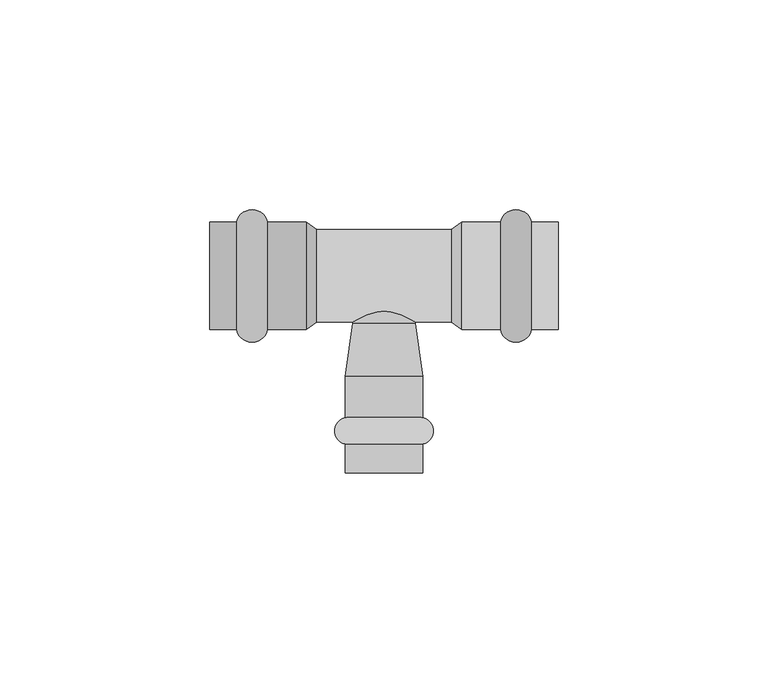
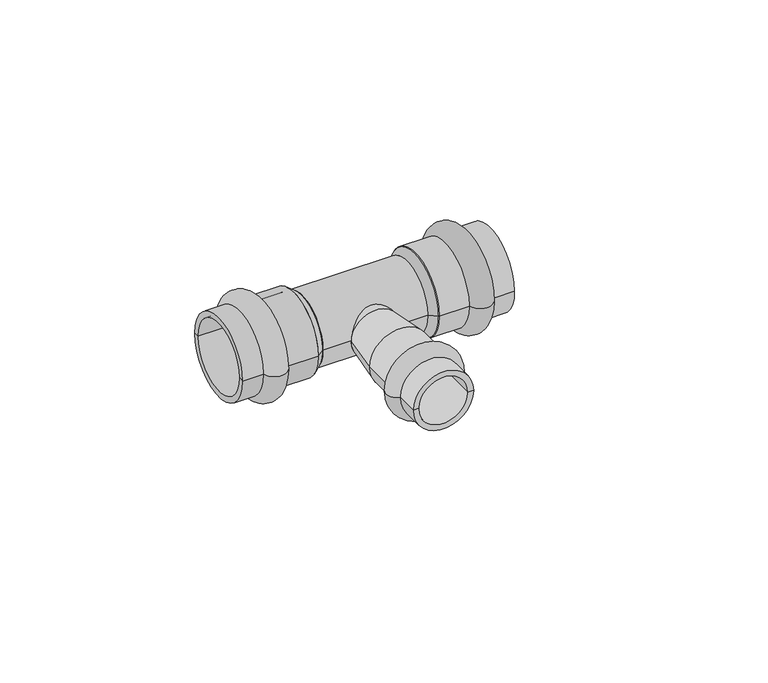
"""IFC4 building model written with IfcOpenShell, lengths in millimetres: pipe fitting geometry, VALTEC_VTi.931.I_Тройник_Ннержавеющая сталь : VTi.931.I."""

import ifcopenshell
import ifcopenshell.guid

model = None  # the IFC model being written
_history = None  # IfcOwnerHistory: only IFC2X3 demands one
_inside = {}  # id of a spatial element -> (the spatial element, [elements in it])
_under = {}  # id of a project, library or spatial element -> (it, [spatial elements below it])
_declared = {}  # id of a project -> (the project, [libraries it declares])
_typed = {}  # id of a type object -> (the type object, [elements of that type])
_made_of = {}  # id of a material, layer set ... -> (it, [elements and type objects made of it])


def new_model(schema):
    """Start an empty IFC model of exactly this schema.

    Asked for "IFC4X3", IfcOpenShell would pick the latest addendum, in which some entities
    have other attributes; the version numbers below select the first issue.
    IFC2X3 requires an IfcOwnerHistory on every rooted entity: one is made here for all.
    """
    global model, _history
    if schema == "IFC4X3":
        model = ifcopenshell.file(schema_version=(4, 3, 0, 0))
    else:
        model = ifcopenshell.file(schema=schema)
    _inside.clear()
    _under.clear()
    _declared.clear()
    _typed.clear()
    _made_of.clear()
    _history = None
    if model.schema == "IFC2X3":
        org = make("IfcOrganization", Name="unknown")
        user = make(
            "IfcPersonAndOrganization",
            ThePerson=make("IfcPerson", FamilyName="unknown"),
            TheOrganization=org,
        )
        app = make(
            "IfcApplication",
            ApplicationDeveloper=org,
            Version="unknown",
            ApplicationFullName="unknown",
            ApplicationIdentifier="unknown",
        )
        _history = make(
            "IfcOwnerHistory",
            OwningUser=user,
            OwningApplication=app,
            ChangeAction="ADDED",
            CreationDate=0,
        )
    return model


def make(cls, **values):
    """One entity of the class cls with the attributes given. An attribute that is None is left unset."""
    return model.create_entity(
        cls, **{name: value for name, value in values.items() if value is not None}
    )


def rooted(cls, **values):
    """An entity with a GlobalId (a new one), such as an element, a storey or a relation."""
    return make(cls, GlobalId=ifcopenshell.guid.new(), OwnerHistory=_history, **values)


def si_unit(unit_type, name, prefix=None):
    """IfcSIUnit, for example si_unit("LENGTHUNIT", "METRE", prefix="MILLI")."""
    return make("IfcSIUnit", UnitType=unit_type, Prefix=prefix, Name=name)


def assignment(units):
    """IfcUnitAssignment: the units of a project."""
    return None if units is None else make("IfcUnitAssignment", Units=units)


def point(xyz):
    """IfcCartesianPoint."""
    return None if xyz is None else make("IfcCartesianPoint", Coordinates=xyz)


def direction(xyz):
    """IfcDirection."""
    return None if xyz is None else make("IfcDirection", DirectionRatios=xyz)


def frame(location, z_axis=None, x_axis=None):
    """IfcAxis2Placement3D, a coordinate frame: its origin and axes. An axis left out is left unset."""
    return make(
        "IfcAxis2Placement3D",
        Location=point(location),
        Axis=direction(z_axis),
        RefDirection=direction(x_axis),
    )


def frame_2d(location, x_axis=None):
    """IfcAxis2Placement2D, a coordinate frame in the plane: its origin and x axis."""
    return make(
        "IfcAxis2Placement2D", Location=point(location), RefDirection=direction(x_axis)
    )


def origin():
    """The frame at (0, 0, 0) with its axes left unset."""
    return frame((0.0, 0.0, 0.0))


def origin_2d():
    """The frame at (0, 0) in the plane with its x axis left unset."""
    return frame_2d((0.0, 0.0))


def place(relative_to, where):
    """IfcLocalPlacement: puts the frame where relative to a parent placement (None: the world)."""
    return make(
        "IfcLocalPlacement", PlacementRelTo=relative_to, RelativePlacement=where
    )


def context(
    kind, dimensions, precision=None, world=None, true_north=None, identifier=None
):
    """IfcGeometricRepresentationContext, for example the 3D "Model" context."""
    return make(
        "IfcGeometricRepresentationContext",
        ContextIdentifier=identifier,
        ContextType=kind,
        CoordinateSpaceDimension=dimensions,
        Precision=precision,
        WorldCoordinateSystem=world,
        TrueNorth=true_north,
    )


def project(units=None, contexts=None):
    """IfcProject with its units and contexts."""
    return rooted(
        "IfcProject",
        Name="project",
        RepresentationContexts=contexts,
        UnitsInContext=assignment(units),
    )


def spatial(cls, under=None, at=None, **own):
    """A site, building, storey or space (cls), placed at a placement, below another one or the project."""
    s = rooted(cls, ObjectPlacement=at, **own)
    if under is not None:
        _under.setdefault(under.id(), (under, []))[1].append(s)
    return s


def polyline(points):
    """IfcPolyline through the points."""
    return make("IfcPolyline", Points=[point(p) for p in points])


def circle_curve(where, radius):
    """IfcCircle in the frame where."""
    return make("IfcCircle", Position=where, Radius=radius)


def ellipse_curve(where, semi_axis1, semi_axis2):
    """IfcEllipse in the frame where."""
    return make(
        "IfcEllipse", Position=where, SemiAxis1=semi_axis1, SemiAxis2=semi_axis2
    )


def trimmed(basis, trim1, trim2, sense, master):
    """IfcTrimmedCurve: the piece of a basis curve between two trims."""
    return make(
        "IfcTrimmedCurve",
        BasisCurve=basis,
        Trim1=trim1,
        Trim2=trim2,
        SenseAgreement=sense,
        MasterRepresentation=master,
    )


def segment(curve, same_sense, transition):
    """IfcCompositeCurveSegment."""
    return make(
        "IfcCompositeCurveSegment",
        Transition=transition,
        SameSense=same_sense,
        ParentCurve=curve,
    )


def composite_curve(segments, self_intersect=None):
    """IfcCompositeCurve: segments joined end to end."""
    return make("IfcCompositeCurve", Segments=segments, SelfIntersect=self_intersect)


def outline(outer, holes=None, kind="AREA"):
    """IfcArbitraryClosedProfileDef: a profile drawn as a closed curve; with holes, ...WithVoids."""
    if holes is None:
        return make("IfcArbitraryClosedProfileDef", ProfileType=kind, OuterCurve=outer)
    return make(
        "IfcArbitraryProfileDefWithVoids",
        ProfileType=kind,
        OuterCurve=outer,
        InnerCurves=holes,
    )


def extrude(swept, where, along, depth):
    """IfcExtrudedAreaSolid: the profile swept, set in the frame where, extruded along a direction by depth."""
    return make(
        "IfcExtrudedAreaSolid",
        SweptArea=swept,
        Position=where,
        ExtrudedDirection=direction(along),
        Depth=depth,
    )


def shape(context_of_items, identifier, shape_type, items):
    """IfcShapeRepresentation: the items that make up one representation, for example the "Body"."""
    return make(
        "IfcShapeRepresentation",
        ContextOfItems=context_of_items,
        RepresentationIdentifier=identifier,
        RepresentationType=shape_type,
        Items=items,
    )


def source(mapping_origin, context_of_items, identifier, shape_type, items):
    """IfcRepresentationMap: a shape defined once, which mapped items show again and again."""
    return make(
        "IfcRepresentationMap",
        MappingOrigin=mapping_origin,
        MappedRepresentation=shape(context_of_items, identifier, shape_type, items),
    )


def transform(
    local_origin,
    x_axis=None,
    y_axis=None,
    z_axis=None,
    scale=None,
    scale2=None,
    scale3=None,
    uniform=True,
):
    """IfcCartesianTransformationOperator3D, or its non-uniform kind. x_axis, y_axis, z_axis: its Axis1, 2, 3."""
    if uniform:
        return make(
            "IfcCartesianTransformationOperator3D",
            Axis1=direction(x_axis),
            Axis2=direction(y_axis),
            LocalOrigin=point(local_origin),
            Scale=scale,
            Axis3=direction(z_axis),
        )
    return make(
        "IfcCartesianTransformationOperator3DnonUniform",
        Axis1=direction(x_axis),
        Axis2=direction(y_axis),
        LocalOrigin=point(local_origin),
        Scale=scale,
        Axis3=direction(z_axis),
        Scale2=scale2,
        Scale3=scale3,
    )


def mapped(mapping_source, mapping_target):
    """IfcMappedItem: shows the shape of a source again, moved by a transform."""
    return make(
        "IfcMappedItem", MappingSource=mapping_source, MappingTarget=mapping_target
    )


def made_of(thing, what):
    """Note that an element or type object is made of a material, layer set ...; save() writes the relation."""
    if what is not None:
        _made_of.setdefault(what.id(), (what, []))[1].append(thing)
    return thing


def element(
    cls,
    number,
    at=None,
    inside=None,
    cuts=None,
    type_object=None,
    material=None,
    context=None,
    identifier="Body",
    shape_type=None,
    held_by="IfcProductDefinitionShape",
    body=None,
    shapes=None,
    **own,
):
    """One element of the class cls, such as IfcWall. Its Tag is "e" and its number.

    at: its placement. inside: the storey or other place that contains it. cuts: it is an
    opening in that element (IfcRelVoidsElement). A single representation is given by context,
    identifier, shape_type and body (its items); several are given by shapes. held_by: the class
    of the entity that holds the representations. save() writes the other relations.
    """
    e = rooted(cls, Tag="e%d" % number, ObjectPlacement=at, **own)
    if body is not None:
        shapes = [shape(context, identifier, shape_type, body)]
    if shapes is not None:
        e.Representation = make(held_by, Representations=shapes)
    if inside is not None:
        _inside.setdefault(inside.id(), (inside, []))[1].append(e)
    if cuts is not None:
        rooted(
            "IfcRelVoidsElement", RelatingBuildingElement=cuts, RelatedOpeningElement=e
        )
    if type_object is not None:
        _typed.setdefault(type_object.id(), (type_object, []))[1].append(e)
    return made_of(e, material)


def aggregate(whole, parts):
    """IfcRelAggregates: a whole, such as a stair, and the parts it consists of."""
    return rooted("IfcRelAggregates", RelatingObject=whole, RelatedObjects=parts)


def save(model, path):
    """Write the relations noted so far, then the file.

    IfcRelAggregates (storeys below a building ...), IfcRelContainedInSpatialStructure (elements
    in a storey), IfcRelDefinesByType, IfcRelAssociatesMaterial and IfcRelDeclares: one each for
    every whole, place, type object, material and project.
    """
    for whole, parts in _under.values():
        aggregate(whole, parts)
    for where, things in _inside.values():
        rooted(
            "IfcRelContainedInSpatialStructure",
            RelatedElements=things,
            RelatingStructure=where,
        )
    for kind, things in _typed.values():
        rooted("IfcRelDefinesByType", RelatedObjects=things, RelatingType=kind)
    for what, things in _made_of.values():
        rooted("IfcRelAssociatesMaterial", RelatedObjects=things, RelatingMaterial=what)
    for by, libraries in _declared.values():
        rooted("IfcRelDeclares", RelatingContext=by, RelatedDefinitions=libraries)
    model.write(path)


def plane_surface(at):
    """IfcPlane: the flat surface through the origin of the frame at, square to its z axis."""
    return make("IfcPlane", Position=at)


def cylinder_surface(at, radius):
    """IfcCylindricalSurface: all points at the distance radius from the z axis of the frame at."""
    return make("IfcCylindricalSurface", Position=at, Radius=radius)


def revolved_surface(curve, axis_point, axis_direction):
    """IfcSurfaceOfRevolution: the curve turned about the line through axis_point along axis_direction."""
    return make(
        "IfcSurfaceOfRevolution",
        SweptCurve=make("IfcArbitraryOpenProfileDef", ProfileType="CURVE", Curve=curve),
        AxisPosition=make("IfcAxis1Placement", Location=point(axis_point), Axis=direction(axis_direction)),
    )


def advanced_brep(points, edges, surfaces, faces):
    """IfcAdvancedBrep: a solid bounded by faces that lie on surfaces and meet in shared edges.

    An edge is (start, end): straight between two places in points (the first is 0);
    or (start, end, curve); or (start, end, curve, False) where it runs against its curve.
    A face is (place in surfaces, loops), or (place, loops, False) where it looks against
    its surface's normal. A loop lists edges by number (the first is 1), with a minus sign
    where the edge is run from its end to its start. The first loop is the outer one.
    """
    corners = [point(p) for p in points]
    vertices = [make("IfcVertexPoint", VertexGeometry=c) for c in corners]
    made = []
    for start, end, *more in edges:
        made.append(
            make(
                "IfcEdgeCurve",
                EdgeStart=vertices[start],
                EdgeEnd=vertices[end],
                EdgeGeometry=more[0] if more else make("IfcPolyline", Points=[corners[start], corners[end]]),
                SameSense=more[1] if len(more) > 1 else True,
            )
        )
    hull = []
    for where, loops, *sense in faces:
        bounds = []
        for j, loop in enumerate(loops):
            ring = [make("IfcOrientedEdge", EdgeElement=made[abs(k) - 1], Orientation=k > 0) for k in loop]
            bounds.append(
                make(
                    "IfcFaceOuterBound" if j == 0 else "IfcFaceBound",
                    Bound=make("IfcEdgeLoop", EdgeList=ring),
                    Orientation=True,
                )
            )
        hull.append(make("IfcAdvancedFace", Bounds=bounds, FaceSurface=surfaces[where], SameSense=sense[0] if sense else True))
    return make("IfcAdvancedBrep", Outer=make("IfcClosedShell", CfsFaces=hull))


def pipe_fitting_886af1a9(model_context):
    return source(origin(), model_context, "Body", "SolidModel", [
        advanced_brep(
        [(9.25, -40.1122777, 0.0), (-9.25, -40.1122777, 0.0), (-9.25, -33.7877223, 0.0), (9.25, -33.7877223, 0.0), (9.25, -47.0, 0.0), (-9.25, -47.0, 0.0), (7.5, -47.0, 0.0), (-7.5, -47.0, 0.0), (7.5, -24.0, 0.0), (-7.5, -24.0, 0.0), (9.25, -24.0, 0.0), (-9.25, -24.0, 0.0)],
        [
            (0, 1, circle_curve(frame((0.0, -40.1122777, 0.0), z_axis=(0.0, 1.0, 0.0), x_axis=(-1.0, 0.0, 0.0)), 9.25)),
            (1, 2, circle_curve(frame((-8.5, -36.95, 0.0), z_axis=(0.0, 0.0, -1.0), x_axis=(0.0, 1.0, 0.0)), 3.25)),
            (2, 3, circle_curve(frame((0.0, -33.7877223, 0.0), z_axis=(0.0, -1.0, 0.0), x_axis=(-1.0, 0.0, 0.0)), 9.25)),
            (3, 0, circle_curve(frame((8.5, -36.95, 0.0), z_axis=(0.0, 0.0, -1.0), x_axis=(0.0, 1.0, 0.0)), 3.25)),
            (1, 0, circle_curve(frame((0.0, -40.1122777, 0.0), z_axis=(0.0, 1.0, 0.0), x_axis=(-1.0, 0.0, 0.0)), 9.25)),
            (3, 2, circle_curve(frame((0.0, -33.7877223, 0.0), z_axis=(0.0, -1.0, 0.0), x_axis=(-1.0, 0.0, 0.0)), 9.25)),
            (4, 5, circle_curve(frame((0.0, -47.0, 0.0), z_axis=(0.0, 1.0, 0.0), x_axis=(-1.0, 0.0, 0.0)), 9.25)),
            (5, 1),
            (0, 4),
            (5, 4, circle_curve(frame((0.0, -47.0, 0.0), z_axis=(0.0, 1.0, 0.0), x_axis=(-1.0, 0.0, 0.0)), 9.25)),
            (6, 7, circle_curve(frame((0.0, -47.0, 0.0), z_axis=(0.0, 1.0, 0.0), x_axis=(-1.0, 0.0, 0.0)), 7.5)),
            (7, 5),
            (4, 6),
            (7, 6, circle_curve(frame((0.0, -47.0, 0.0), z_axis=(0.0, 1.0, 0.0), x_axis=(-1.0, 0.0, 0.0)), 7.5)),
            (8, 9, circle_curve(frame((0.0, -24.0, 0.0), z_axis=(0.0, 1.0, 0.0), x_axis=(-1.0, 0.0, 0.0)), 7.5)),
            (9, 7),
            (6, 8),
            (9, 8, circle_curve(frame((0.0, -24.0, 0.0), z_axis=(0.0, 1.0, 0.0), x_axis=(-1.0, 0.0, 0.0)), 7.5)),
            (10, 11, circle_curve(frame((0.0, -24.0, 0.0), z_axis=(0.0, 1.0, 0.0), x_axis=(-1.0, 0.0, 0.0)), 9.25)),
            (11, 9),
            (8, 10),
            (11, 10, circle_curve(frame((0.0, -24.0, 0.0), z_axis=(0.0, 1.0, 0.0), x_axis=(-1.0, 0.0, 0.0)), 9.25)),
            (2, 11),
            (10, 3),
        ],
        [
            revolved_surface(trimmed(ellipse_curve(frame((-8.5, -36.95, 0.0), z_axis=(0.0, 0.0, 1.0), x_axis=(0.0, 1.0, 0.0)), 3.25, 3.25), [point((-9.25, -33.7877223, 0.0))], [point((-9.25, -40.1122777, 0.0))], True, "CARTESIAN"), (0.0, -50.5364426, 0.0), (0.0, -1.0, 0.0)),
            cylinder_surface(frame((0.0, -50.5364426, 0.0), z_axis=(0.0, -1.0, 0.0), x_axis=(-1.0, 0.0, 0.0)), 9.25),
            plane_surface(frame((0.0, -47.0, 0.0), z_axis=(0.0, -1.0, 0.0), x_axis=(-1.0, 0.0, 0.0))),
            revolved_surface(polyline([(-7.5, -47.0, 0.0), (-7.5, -24.0, 0.0)]), (0.0, -50.5364426, 0.0), (0.0, -1.0, 0.0)),
            plane_surface(frame((0.0, -24.0, 0.0), z_axis=(0.0, 1.0, 0.0), x_axis=(-1.0, 0.0, 0.0))),
        ],
        [
            (0, [[1, 2, 3, 4]]),
            (0, [[5, -4, 6, -2]]),
            (1, [[7, 8, -1, 9]]),
            (1, [[10, -9, -5, -8]]),
            (2, [[11, 12, -7, 13]]),
            (2, [[14, -13, -10, -12]]),
            (3, [[15, 16, -11, 17]]),
            (3, [[18, -17, -14, -16]]),
            (4, [[19, 20, -15, 21]]),
            (4, [[22, -21, -18, -20]]),
            (1, [[-3, 23, -19, 24]]),
            (1, [[-6, -24, -22, -23]]),
        ],
    ),
        advanced_brep(
        [(35.1242346, 12.8, 0.0), (35.1242346, -12.8, 0.0), (27.7757654, -12.8, 0.0), (27.7757654, 12.8, 0.0), (41.5, 12.8, 0.0), (41.5, -12.8, 0.0), (41.5, 11.0, 0.0), (41.5, -11.0, 0.0), (18.5, 11.0, 0.0), (18.5, -11.0, 0.0), (18.5, 12.8, 0.0), (18.5, -12.8, 0.0)],
        [
            (0, 1, circle_curve(frame((35.1242346, 0.0, 0.0), z_axis=(-1.0, 0.0, 0.0), x_axis=(0.0, -1.0, 0.0)), 12.8)),
            (1, 2, circle_curve(frame((31.45, -12.05, 0.0), z_axis=(0.0, 0.0, -1.0), x_axis=(-1.0, 0.0, 0.0)), 3.75)),
            (2, 3, circle_curve(frame((27.7757654, 0.0, 0.0), z_axis=(1.0, 0.0, 0.0), x_axis=(0.0, -1.0, 0.0)), 12.8)),
            (3, 0, circle_curve(frame((31.45, 12.05, 0.0), z_axis=(0.0, 0.0, -1.0), x_axis=(-1.0, 0.0, 0.0)), 3.75)),
            (1, 0, circle_curve(frame((35.1242346, 0.0, 0.0), z_axis=(-1.0, 0.0, 0.0), x_axis=(0.0, -1.0, 0.0)), 12.8)),
            (3, 2, circle_curve(frame((27.7757654, 0.0, 0.0), z_axis=(1.0, 0.0, 0.0), x_axis=(0.0, -1.0, 0.0)), 12.8)),
            (4, 5, circle_curve(frame((41.5, 0.0, 0.0), z_axis=(-1.0, 0.0, 0.0), x_axis=(0.0, -1.0, 0.0)), 12.8)),
            (5, 1),
            (0, 4),
            (5, 4, circle_curve(frame((41.5, 0.0, 0.0), z_axis=(-1.0, 0.0, 0.0), x_axis=(0.0, -1.0, 0.0)), 12.8)),
            (6, 7, circle_curve(frame((41.5, 0.0, 0.0), z_axis=(-1.0, 0.0, 0.0), x_axis=(0.0, -1.0, 0.0)), 11.0)),
            (7, 5),
            (4, 6),
            (7, 6, circle_curve(frame((41.5, 0.0, 0.0), z_axis=(-1.0, 0.0, 0.0), x_axis=(0.0, -1.0, 0.0)), 11.0)),
            (8, 9, circle_curve(frame((18.5, 0.0, 0.0), z_axis=(-1.0, 0.0, 0.0), x_axis=(0.0, -1.0, 0.0)), 11.0)),
            (9, 7),
            (6, 8),
            (9, 8, circle_curve(frame((18.5, 0.0, 0.0), z_axis=(-1.0, 0.0, 0.0), x_axis=(0.0, -1.0, 0.0)), 11.0)),
            (10, 11, circle_curve(frame((18.5, 0.0, 0.0), z_axis=(-1.0, 0.0, 0.0), x_axis=(0.0, -1.0, 0.0)), 12.8)),
            (11, 9),
            (8, 10),
            (11, 10, circle_curve(frame((18.5, 0.0, 0.0), z_axis=(-1.0, 0.0, 0.0), x_axis=(0.0, -1.0, 0.0)), 12.8)),
            (2, 11),
            (10, 3),
        ],
        [
            revolved_surface(trimmed(ellipse_curve(frame((31.45, -12.05, 0.0), z_axis=(0.0, 0.0, 1.0), x_axis=(-1.0, 0.0, 0.0)), 3.75, 3.75), [point((27.7757654, -12.8, 0.0))], [point((35.1242346, -12.8, 0.0))], True, "CARTESIAN"), (45.0364426, 0.0, 0.0), (1.0, 0.0, 0.0)),
            cylinder_surface(frame((45.0364426, 0.0, 0.0), z_axis=(1.0, 0.0, 0.0), x_axis=(0.0, -1.0, 0.0)), 12.8),
            plane_surface(frame((41.5, 0.0, 0.0), z_axis=(1.0, 0.0, 0.0), x_axis=(0.0, -1.0, 0.0))),
            revolved_surface(polyline([(41.5, -11.0, 0.0), (18.5, -11.0, 0.0)]), (45.0364426, 0.0, 0.0), (1.0, 0.0, 0.0)),
            plane_surface(frame((18.5, 0.0, 0.0), z_axis=(-1.0, 0.0, 0.0), x_axis=(0.0, -1.0, 0.0))),
        ],
        [
            (0, [[1, 2, 3, 4]]),
            (0, [[5, -4, 6, -2]]),
            (1, [[7, 8, -1, 9]]),
            (1, [[10, -9, -5, -8]]),
            (2, [[11, 12, -7, 13]]),
            (2, [[14, -13, -10, -12]]),
            (3, [[15, 16, -11, 17]]),
            (3, [[18, -17, -14, -16]]),
            (4, [[19, 20, -15, 21]]),
            (4, [[22, -21, -18, -20]]),
            (1, [[-3, 23, -19, 24]]),
            (1, [[-6, -24, -22, -23]]),
        ],
    ),
        advanced_brep(
        [(-35.1242346, -12.8, 0.0), (-35.1242346, 12.8, 0.0), (-27.7757654, 12.8, 0.0), (-27.7757654, -12.8, 0.0), (-41.5, -12.8, 0.0), (-41.5, 12.8, 0.0), (-41.5, -11.0, 0.0), (-41.5, 11.0, 0.0), (-18.5, -11.0, 0.0), (-18.5, 11.0, 0.0), (-18.5, -12.8, 0.0), (-18.5, 12.8, 0.0)],
        [
            (0, 1, circle_curve(frame((-35.1242346, 0.0, 0.0), z_axis=(1.0, 0.0, 0.0), x_axis=(0.0, 1.0, 0.0)), 12.8)),
            (1, 2, circle_curve(frame((-31.45, 12.05, 0.0), z_axis=(0.0, 0.0, -1.0), x_axis=(1.0, 0.0, 0.0)), 3.75)),
            (2, 3, circle_curve(frame((-27.7757654, 0.0, 0.0), z_axis=(-1.0, 0.0, 0.0), x_axis=(0.0, 1.0, 0.0)), 12.8)),
            (3, 0, circle_curve(frame((-31.45, -12.05, 0.0), z_axis=(0.0, 0.0, -1.0), x_axis=(1.0, 0.0, 0.0)), 3.75)),
            (1, 0, circle_curve(frame((-35.1242346, 0.0, 0.0), z_axis=(1.0, 0.0, 0.0), x_axis=(0.0, 1.0, 0.0)), 12.8)),
            (3, 2, circle_curve(frame((-27.7757654, 0.0, 0.0), z_axis=(-1.0, 0.0, 0.0), x_axis=(0.0, 1.0, 0.0)), 12.8)),
            (4, 5, circle_curve(frame((-41.5, 0.0, 0.0), z_axis=(1.0, 0.0, 0.0), x_axis=(0.0, 1.0, 0.0)), 12.8)),
            (5, 1),
            (0, 4),
            (5, 4, circle_curve(frame((-41.5, 0.0, 0.0), z_axis=(1.0, 0.0, 0.0), x_axis=(0.0, 1.0, 0.0)), 12.8)),
            (6, 7, circle_curve(frame((-41.5, 0.0, 0.0), z_axis=(1.0, 0.0, 0.0), x_axis=(0.0, 1.0, 0.0)), 11.0)),
            (7, 5),
            (4, 6),
            (7, 6, circle_curve(frame((-41.5, 0.0, 0.0), z_axis=(1.0, 0.0, 0.0), x_axis=(0.0, 1.0, 0.0)), 11.0)),
            (8, 9, circle_curve(frame((-18.5, 0.0, 0.0), z_axis=(1.0, 0.0, 0.0), x_axis=(0.0, 1.0, 0.0)), 11.0)),
            (9, 7),
            (6, 8),
            (9, 8, circle_curve(frame((-18.5, 0.0, 0.0), z_axis=(1.0, 0.0, 0.0), x_axis=(0.0, 1.0, 0.0)), 11.0)),
            (10, 11, circle_curve(frame((-18.5, 0.0, 0.0), z_axis=(1.0, 0.0, 0.0), x_axis=(0.0, 1.0, 0.0)), 12.8)),
            (11, 9),
            (8, 10),
            (11, 10, circle_curve(frame((-18.5, 0.0, 0.0), z_axis=(1.0, 0.0, 0.0), x_axis=(0.0, 1.0, 0.0)), 12.8)),
            (2, 11),
            (10, 3),
        ],
        [
            revolved_surface(trimmed(ellipse_curve(frame((-31.45, 12.05, 0.0), z_axis=(0.0, 0.0, 1.0), x_axis=(1.0, 0.0, 0.0)), 3.75, 3.75), [point((-27.7757654, 12.8, 0.0))], [point((-35.1242346, 12.8, 0.0))], True, "CARTESIAN"), (-45.0364426, 0.0, 0.0), (-1.0, 0.0, 0.0)),
            cylinder_surface(frame((-45.0364426, 0.0, 0.0), z_axis=(-1.0, 0.0, 0.0), x_axis=(0.0, 1.0, 0.0)), 12.8),
            plane_surface(frame((-41.5, 0.0, 0.0), z_axis=(-1.0, 0.0, 0.0), x_axis=(0.0, 1.0, 0.0))),
            revolved_surface(polyline([(-41.5, 11.0, 0.0), (-18.5, 11.0, 0.0)]), (-45.0364426, 0.0, 0.0), (-1.0, 0.0, 0.0)),
            plane_surface(frame((-18.5, 0.0, 0.0), z_axis=(1.0, 0.0, 0.0), x_axis=(0.0, 1.0, 0.0))),
        ],
        [
            (0, [[1, 2, 3, 4]]),
            (0, [[5, -4, 6, -2]]),
            (1, [[7, 8, -1, 9]]),
            (1, [[10, -9, -5, -8]]),
            (2, [[11, 12, -7, 13]]),
            (2, [[14, -13, -10, -12]]),
            (3, [[15, 16, -11, 17]]),
            (3, [[18, -17, -14, -16]]),
            (4, [[19, 20, -15, 21]]),
            (4, [[22, -21, -18, -20]]),
            (1, [[-3, 23, -19, 24]]),
            (1, [[-6, -24, -22, -23]]),
        ],
    ),
        extrude(outline(composite_curve([segment(trimmed(circle_curve(origin_2d(), 11.0), [point((-11.0, 0.0))], [point((11.0, 0.0))], False, "CARTESIAN"), True, "CONTINUOUS"), segment(trimmed(circle_curve(origin_2d(), 11.0), [point((11.0, 0.0))], [point((-11.0, 0.0))], False, "CARTESIAN"), True, "CONTINUOUS")], self_intersect=False)), frame((-16.0, 0.0, 0.0), z_axis=(1.0, 0.0, 0.0), x_axis=(0.0, 1.0, 0.0)), (0.0, 0.0, 1.0), 32.0),
        advanced_brep(
        [(-9.25, -24.0, 0.0), (9.25, -24.0, 0.0), (-7.5, -11.3209826, 0.0), (7.5, -11.3209826, 0.0)],
        [
            (0, 1, circle_curve(frame((0.0, -24.0, 0.0), z_axis=(0.0, -1.0, 0.0), x_axis=(-1.0, 0.0, 0.0)), 9.25)),
            (1, 0, circle_curve(frame((0.0, -24.0, 0.0), z_axis=(0.0, -1.0, 0.0), x_axis=(1.0, 0.0, 0.0)), 9.25)),
            (2, 3, circle_curve(frame((0.0, -11.3209826, 0.0), z_axis=(0.0, 1.0, 0.0), x_axis=(1.0, 0.0, 0.0)), 7.5)),
            (3, 2, circle_curve(frame((0.0, -11.3209826, 0.0), z_axis=(0.0, 1.0, 0.0), x_axis=(-1.0, 0.0, 0.0)), 7.5)),
            (3, 1),
            (0, 2),
        ],
        [
            plane_surface(frame((0.0, -24.0, 0.0), z_axis=(0.0, -1.0, 0.0), x_axis=(0.0, 0.0, 1.0))),
            plane_surface(frame((0.0, -11.3209826, 0.0), z_axis=(0.0, 1.0, 0.0), x_axis=(0.0, 0.0, 1.0))),
            revolved_surface(polyline([(7.5, -11.3209826, 0.0), (9.25, -24.0, 0.0)]), (0.0, 43.0176634, 0.0), (0.0, -1.0, 0.0)),
            revolved_surface(polyline([(-7.5, -11.3209826, 0.0), (-9.25, -24.0, 0.0)]), (0.0, 43.0176634, 0.0), (0.0, -1.0, 0.0)),
        ],
        [
            (0, [[1, 2]]),
            (1, [[3, 4]]),
            (2, [[-4, 5, -1, 6]]),
            (3, [[-3, -6, -2, -5]]),
        ],
    ),
        extrude(outline(composite_curve([segment(trimmed(circle_curve(origin_2d(), 7.5), [point((0.0, -7.5))], [point((0.0, 7.5))], False, "CARTESIAN"), True, "CONTINUOUS"), segment(trimmed(circle_curve(origin_2d(), 7.5), [point((0.0, 7.5))], [point((0.0, -7.5))], False, "CARTESIAN"), True, "CONTINUOUS")], self_intersect=False)), frame((0.0, -11.3209826, 0.0), z_axis=(0.0, 1.0, 0.0), x_axis=(0.0, 0.0, 1.0)), (0.0, 0.0, 1.0), 11.3209826),
        advanced_brep(
        [(18.5, -12.8, 0.0), (18.5, 12.8, 0.0), (16.0, -11.0, 0.0), (16.0, 11.0, 0.0)],
        [
            (0, 1, circle_curve(frame((18.5, 0.0, 0.0), z_axis=(1.0, 0.0, 0.0), x_axis=(0.0, -1.0, 0.0)), 12.8)),
            (1, 0, circle_curve(frame((18.5, 0.0, 0.0), z_axis=(1.0, 0.0, 0.0), x_axis=(0.0, 1.0, 0.0)), 12.8)),
            (2, 3, circle_curve(frame((16.0, 0.0, 0.0), z_axis=(-1.0, 0.0, 0.0), x_axis=(0.0, 1.0, 0.0)), 11.0)),
            (3, 2, circle_curve(frame((16.0, 0.0, 0.0), z_axis=(-1.0, 0.0, 0.0), x_axis=(0.0, -1.0, 0.0)), 11.0)),
            (3, 1),
            (0, 2),
        ],
        [
            plane_surface(frame((18.5, 0.0, 0.0), z_axis=(1.0, 0.0, 0.0), x_axis=(0.0, 0.0, 1.0))),
            plane_surface(frame((16.0, 0.0, 0.0), z_axis=(-1.0, 0.0, 0.0), x_axis=(0.0, 0.0, 1.0))),
            revolved_surface(polyline([(16.0, 11.000000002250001, 0.0), (18.5, 12.8, 0.0)]), (0.7222222, 0.0, 0.0), (1.0, 0.0, 0.0)),
            revolved_surface(polyline([(16.0, -11.000000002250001, 0.0), (18.5, -12.8, 0.0)]), (0.7222222, 0.0, 0.0), (1.0, 0.0, 0.0)),
        ],
        [
            (0, [[1, 2]]),
            (1, [[3, 4]]),
            (2, [[-4, 5, -1, 6]]),
            (3, [[-3, -6, -2, -5]]),
        ],
    ),
        advanced_brep(
        [(-18.5, -12.8, 0.0), (-18.5, 12.8, 0.0), (-16.0, -11.0, 0.0), (-16.0, 11.0, 0.0)],
        [
            (0, 1, circle_curve(frame((-18.5, 0.0, 0.0), z_axis=(-1.0, 0.0, 0.0), x_axis=(0.0, -1.0, 0.0)), 12.8)),
            (1, 0, circle_curve(frame((-18.5, 0.0, 0.0), z_axis=(-1.0, 0.0, 0.0), x_axis=(0.0, 1.0, 0.0)), 12.8)),
            (2, 3, circle_curve(frame((-16.0, 0.0, 0.0), z_axis=(1.0, 0.0, 0.0), x_axis=(0.0, 1.0, 0.0)), 11.0)),
            (3, 2, circle_curve(frame((-16.0, 0.0, 0.0), z_axis=(1.0, 0.0, 0.0), x_axis=(0.0, -1.0, 0.0)), 11.0)),
            (2, 0),
            (1, 3),
        ],
        [
            plane_surface(frame((-18.5, 0.0, 0.0), z_axis=(-1.0, 0.0, 0.0), x_axis=(0.0, 0.0, -1.0))),
            plane_surface(frame((-16.0, 0.0, 0.0), z_axis=(1.0, 0.0, 0.0), x_axis=(0.0, 0.0, -1.0))),
            revolved_surface(polyline([(-16.0, -11.000000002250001, 0.0), (-18.5, -12.8, 0.0)]), (-0.7222222, 0.0, 0.0), (-1.0, 0.0, 0.0)),
            revolved_surface(polyline([(-16.0, 11.000000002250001, 0.0), (-18.5, 12.8, 0.0)]), (-0.7222222, 0.0, 0.0), (-1.0, 0.0, 0.0)),
        ],
        [
            (0, [[1, 2]]),
            (1, [[3, 4]]),
            (2, [[-3, 5, -2, 6]]),
            (3, [[-4, -6, -1, -5]]),
        ],
    ),
    ])


if __name__ == "__main__":
    model = new_model("IFC4")
    model_context = context("Model", 3, world=origin())
    ifc_project = project(units=[si_unit("LENGTHUNIT", "METRE", prefix="MILLI")], contexts=[model_context])
    site = spatial("IfcSite", under=ifc_project)
    building = spatial("IfcBuilding", under=site)
    placement = place(None, origin())
    pipe_fitting_shape = pipe_fitting_886af1a9(model_context)
    element("IfcPipeFitting", 1, ObjectType="VALTEC_VTi.931.I_Тройник_Ннержавеющая сталь : VTi.931.I", at=placement, inside=building, context=model_context, shape_type="MappedRepresentation", body=[
        mapped(pipe_fitting_shape, transform((0.0, 0.0, 0.0), x_axis=(1.0, 0.0, 0.0), y_axis=(0.0, 1.0, 0.0), z_axis=(0.0, 0.0, 1.0))),
    ])
    save(model, "model.ifc")
